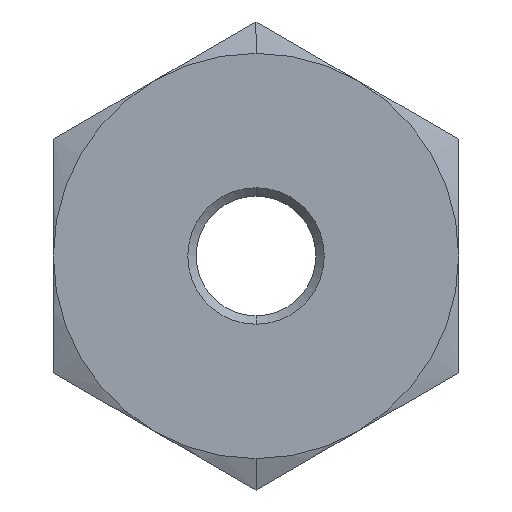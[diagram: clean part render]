
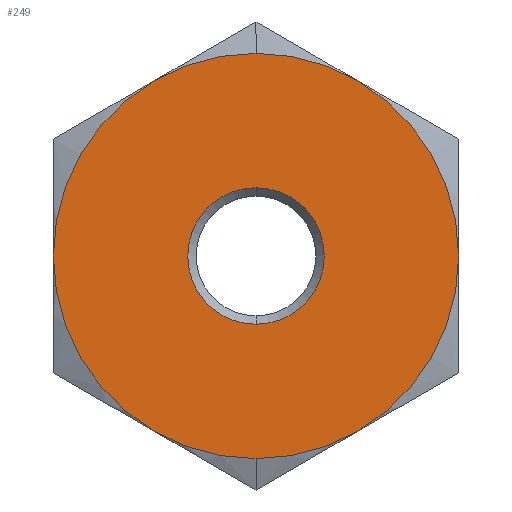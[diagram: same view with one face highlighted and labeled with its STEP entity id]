
A CAD part, left-side view. The second image highlights one B-rep face of the part: STEP entity #249.
In plain terms, the highlighted planar face has unit normal (-1, 0, 0).
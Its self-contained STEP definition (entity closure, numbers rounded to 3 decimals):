
#249=ADVANCED_FACE('',(#507,#508),#509,.F.);
#507=FACE_OUTER_BOUND('',#761,.T.);
#508=FACE_BOUND('',#762,.T.);
#509=PLANE('',#763);
#761=EDGE_LOOP('',(#1365,#1366,#1367,#1368,#1369,#1370,#1371,#1372));
#762=EDGE_LOOP('',(#1373,#1374));
#763=AXIS2_PLACEMENT_3D('',#1375,#1376,#1377);
#1365=ORIENTED_EDGE('',*,*,#1620,.T.);
#1366=ORIENTED_EDGE('',*,*,#1625,.T.);
#1367=ORIENTED_EDGE('',*,*,#1630,.T.);
#1368=ORIENTED_EDGE('',*,*,#1464,.T.);
#1369=ORIENTED_EDGE('',*,*,#1633,.T.);
#1370=ORIENTED_EDGE('',*,*,#1628,.T.);
#1371=ORIENTED_EDGE('',*,*,#1467,.T.);
#1372=ORIENTED_EDGE('',*,*,#1622,.T.);
#1373=ORIENTED_EDGE('',*,*,#1485,.T.);
#1374=ORIENTED_EDGE('',*,*,#1584,.T.);
#1375=CARTESIAN_POINT('',(0.,0.,0.));
#1376=DIRECTION('',(1.0,0.0,0.));
#1377=DIRECTION('',(0.,0.0,-1.0));
#1464=EDGE_CURVE('',#1730,#1732,#1734,.T.);
#1467=EDGE_CURVE('',#1739,#1736,#1740,.T.);
#1485=EDGE_CURVE('',#1769,#1766,#1770,.T.);
#1584=EDGE_CURVE('',#1766,#1769,#1902,.T.);
#1620=EDGE_CURVE('',#1945,#1949,#1951,.T.);
#1622=EDGE_CURVE('',#1736,#1945,#1953,.T.);
#1625=EDGE_CURVE('',#1949,#1955,#1958,.T.);
#1628=EDGE_CURVE('',#1934,#1739,#1961,.T.);
#1630=EDGE_CURVE('',#1955,#1730,#1963,.T.);
#1633=EDGE_CURVE('',#1732,#1934,#1966,.T.);
#1730=VERTEX_POINT('',#2071);
#1732=VERTEX_POINT('',#2074);
#1734=CIRCLE('',#2087,16.5);
#1736=VERTEX_POINT('',#2089);
#1739=VERTEX_POINT('',#2093);
#1740=CIRCLE('',#2094,16.5);
#1766=VERTEX_POINT('',#2155);
#1769=VERTEX_POINT('',#2159);
#1770=CIRCLE('',#2160,5.556);
#1902=CIRCLE('',#2309,5.556);
#1934=VERTEX_POINT('',#2452);
#1945=VERTEX_POINT('',#2499);
#1949=VERTEX_POINT('',#2525);
#1951=CIRCLE('',#2538,16.5);
#1953=CIRCLE('',#2540,16.5);
#1955=VERTEX_POINT('',#2542);
#1958=CIRCLE('',#2556,16.5);
#1961=CIRCLE('',#2570,16.5);
#1963=CIRCLE('',#2572,16.5);
#1966=CIRCLE('',#2586,16.5);
#2071=CARTESIAN_POINT('',(0.,0.,16.5));
#2074=CARTESIAN_POINT('',(0.,8.25,14.289));
#2087=AXIS2_PLACEMENT_3D('',#2715,#2716,#2717);
#2089=CARTESIAN_POINT('',(0.,0.,-16.5));
#2093=CARTESIAN_POINT('',(0.,8.25,-14.289));
#2094=AXIS2_PLACEMENT_3D('',#2719,#2720,#2721);
#2155=CARTESIAN_POINT('',(0.,0.,-5.556));
#2159=CARTESIAN_POINT('',(0.,0.0,5.556));
#2160=AXIS2_PLACEMENT_3D('',#2746,#2747,#2748);
#2309=AXIS2_PLACEMENT_3D('',#2904,#2905,#2906);
#2452=CARTESIAN_POINT('',(0.,16.5,0.));
#2499=CARTESIAN_POINT('',(0.,-8.25,-14.289));
#2525=CARTESIAN_POINT('',(0.0,-16.5,0.0));
#2538=AXIS2_PLACEMENT_3D('',#2923,#2924,#2925);
#2540=AXIS2_PLACEMENT_3D('',#2926,#2927,#2928);
#2542=CARTESIAN_POINT('',(0.,-8.25,14.289));
#2556=AXIS2_PLACEMENT_3D('',#2929,#2930,#2931);
#2570=AXIS2_PLACEMENT_3D('',#2932,#2933,#2934);
#2572=AXIS2_PLACEMENT_3D('',#2935,#2936,#2937);
#2586=AXIS2_PLACEMENT_3D('',#2938,#2939,#2940);
#2715=CARTESIAN_POINT('',(0.0,0.0,0.0));
#2716=DIRECTION('',(-1.0,-0.0,0.));
#2717=DIRECTION('',(0.,0.0,-1.0));
#2719=CARTESIAN_POINT('',(0.0,0.0,0.0));
#2720=DIRECTION('',(-1.0,-0.0,0.));
#2721=DIRECTION('',(0.,0.0,-1.0));
#2746=CARTESIAN_POINT('',(0.0,0.0,0.0));
#2747=DIRECTION('',(1.0,0.0,0.));
#2748=DIRECTION('',(0.,0.0,1.0));
#2904=CARTESIAN_POINT('',(0.0,0.0,0.0));
#2905=DIRECTION('',(1.0,0.0,0.));
#2906=DIRECTION('',(0.,0.0,1.0));
#2923=CARTESIAN_POINT('',(0.0,0.0,0.0));
#2924=DIRECTION('',(-1.0,-0.0,0.));
#2925=DIRECTION('',(0.,0.0,-1.0));
#2926=CARTESIAN_POINT('',(0.0,0.0,0.0));
#2927=DIRECTION('',(-1.0,-0.0,0.));
#2928=DIRECTION('',(0.,0.0,-1.0));
#2929=CARTESIAN_POINT('',(0.0,0.0,0.0));
#2930=DIRECTION('',(-1.0,-0.0,0.));
#2931=DIRECTION('',(0.,0.0,-1.0));
#2932=CARTESIAN_POINT('',(0.0,0.0,0.0));
#2933=DIRECTION('',(-1.0,-0.0,0.));
#2934=DIRECTION('',(0.,0.0,-1.0));
#2935=CARTESIAN_POINT('',(0.0,0.0,0.0));
#2936=DIRECTION('',(-1.0,-0.0,0.));
#2937=DIRECTION('',(0.,0.0,-1.0));
#2938=CARTESIAN_POINT('',(0.0,0.0,0.0));
#2939=DIRECTION('',(-1.0,-0.0,0.));
#2940=DIRECTION('',(0.,0.0,-1.0));
